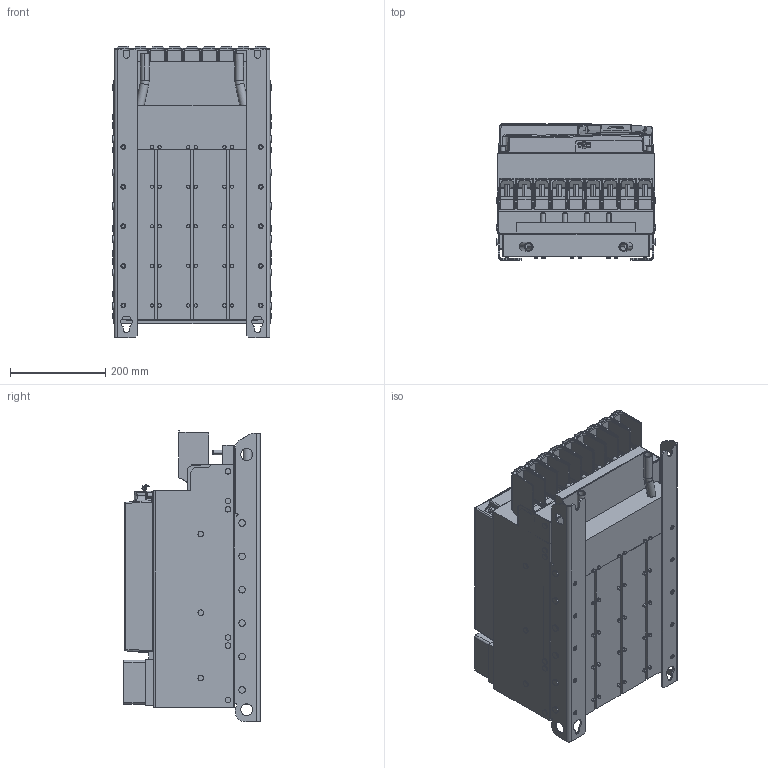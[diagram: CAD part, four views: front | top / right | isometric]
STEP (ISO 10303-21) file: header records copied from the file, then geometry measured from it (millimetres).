
FILE_DESCRIPTION (( 'STEP AP214' ), '1' );
FILE_NAME ('TK0 P1Z.STEP', '2023-11-20T08:26:38', ( '' ), ( '' ), 'SwSTEP 2.0', 'SolidWorks 2022', '' );
FILE_SCHEMA (( 'AUTOMOTIVE_DESIGN' ));
Length unit declared in the file: millimetre
Products named in the file (13): Kundenmodell^10051076_000_Kundenmodell mit Geberbuchsen; 10051076_000_Kundenmodell; Kundenmodell^10059764_000; TK0 P1Z; 10045475_000_Gehäusebaugruppe F6-7 (Kundenmodell); Kundenmodell^10043622_000; 10059764_000_Blindabdeckung (Kundenmodell); 10043622_000_70F6 Klemme (Kundenmodell); Kundenmodell^10045475_000_Gehäusebaugruppe ohne Lüfterkarte; Kundenmodell mit Zubehör^10077759_000; Kundenmodell^10061502_000; 10077759_000_ Leistungsteil + BW F6-7 TW0 (Kundenmodell); 10061502_000_Deckel (Kundenmodell)
Assembly tree (12 placements, depth 4):
  TK0 P1Z
    10077759_000_ Leistungsteil + BW F6-7 TW0 (Kundenmodell)
      10043622_000_70F6 Klemme (Kundenmodell)
        Kundenmodell^10043622_000
      Kundenmodell mit Zubehör^10077759_000
    10045475_000_Gehäusebaugruppe F6-7 (Kundenmodell)
      10061502_000_Deckel (Kundenmodell)
        Kundenmodell^10061502_000
      Kundenmodell^10045475_000_Gehäusebaugruppe ohne Lüfterkarte
    10051076_000_Kundenmodell
      10059764_000_Blindabdeckung (Kundenmodell)
        Kundenmodell^10059764_000
      Kundenmodell^10051076_000_Kundenmodell mit Geberbuchsen
Bounding box: 335.4 x 285.9 x 610.76 mm (x, y, z)
Volume: 43640687.6 mm3; surface area: 2203853.7 mm2
Topology: 12 solids, 12 shells, 3233 faces, 8256 edges, 5090 vertices
Faces by surface type: plane 1630, cylinder 1015, bspline 281, sphere 172, torus 73, cone 62
Entity records: 104099 total; most frequent: CARTESIAN_POINT 27807, ORIENTED_EDGE 16292, DIRECTION 15089, EDGE_CURVE 8146, VECTOR 5165, LINE 5165, VERTEX_POINT 5087, AXIS2_PLACEMENT_3D 4962
